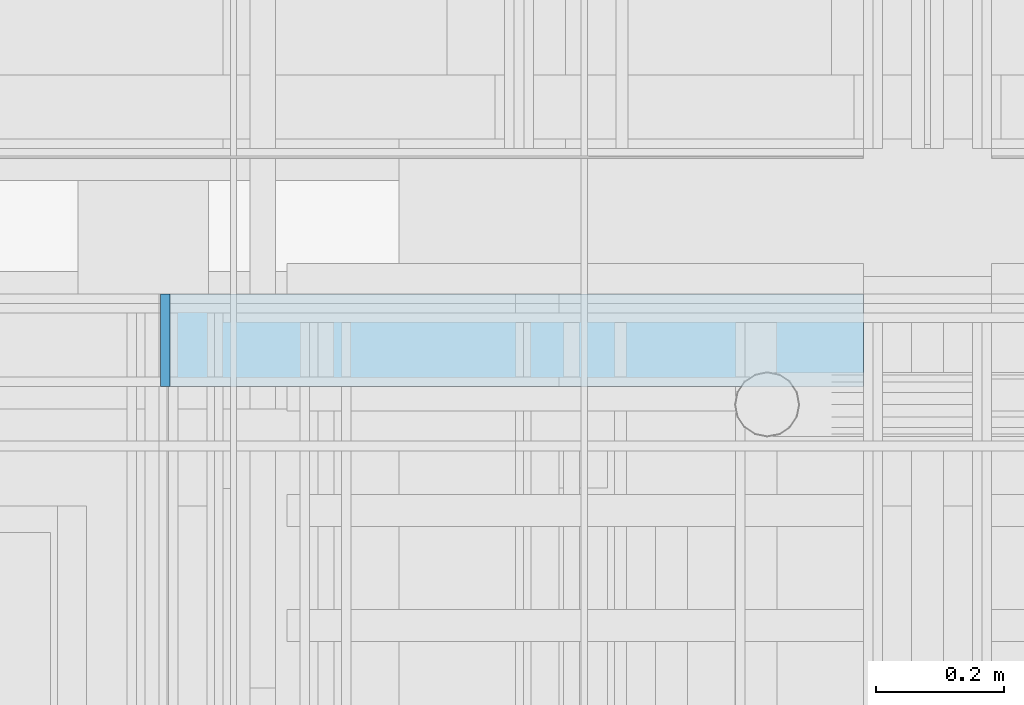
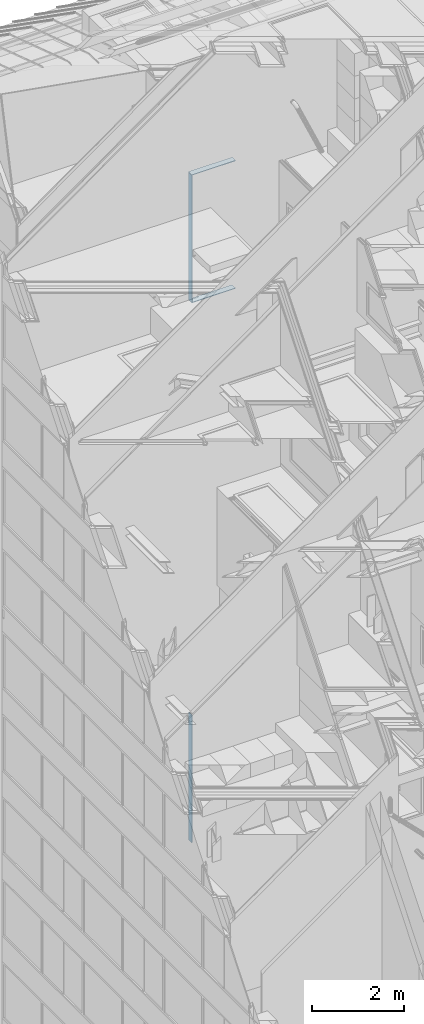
# One storey, part 269 of 583: 4 slabs.
"""IFC2X3 building model written with IfcOpenShell, lengths in metres."""

from ifc_helpers import new_model, entity, si_unit, converted_unit, derived_unit, money_unit, direction, frame, origin_with_axes, place, context, subcontext, project, spatial, faceted_brep, material, type_object, element, save


model = new_model("IFC2X3")

# Units and contexts
model_context = context("Model", 3, precision=1e-05, world=origin_with_axes(), true_north=direction((0.0, 1.0)))
body_context = subcontext(model_context, "Body", "Model", "MODEL_VIEW", scale=1.0)
ifc_project = project(units=[si_unit("LENGTHUNIT", "METRE"), si_unit("AREAUNIT", "SQUARE_METRE"), si_unit("VOLUMEUNIT", "CUBIC_METRE"), si_unit("ABSORBEDDOSEUNIT", "GRAY"), si_unit("AMOUNTOFSUBSTANCEUNIT", "MOLE"), si_unit("DOSEEQUIVALENTUNIT", "SIEVERT"), si_unit("ELECTRICCAPACITANCEUNIT", "FARAD"), si_unit("ELECTRICCHARGEUNIT", "COULOMB"), si_unit("ELECTRICCONDUCTANCEUNIT", "SIEMENS"), si_unit("ELECTRICCURRENTUNIT", "AMPERE"), si_unit("ELECTRICRESISTANCEUNIT", "OHM"), si_unit("ELECTRICVOLTAGEUNIT", "VOLT"), si_unit("ENERGYUNIT", "JOULE"), si_unit("FORCEUNIT", "NEWTON"), si_unit("FREQUENCYUNIT", "HERTZ"), si_unit("ILLUMINANCEUNIT", "LUX"), si_unit("INDUCTANCEUNIT", "HENRY"), si_unit("LUMINOUSFLUXUNIT", "LUMEN"), si_unit("LUMINOUSINTENSITYUNIT", "CANDELA"), si_unit("MAGNETICFLUXDENSITYUNIT", "TESLA"), si_unit("MAGNETICFLUXUNIT", "WEBER"), si_unit("MASSUNIT", "GRAM"), converted_unit("PLANEANGLEUNIT", "degree", entity("IfcReal", 0.0174532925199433), si_unit("PLANEANGLEUNIT", "RADIAN"), dimensions=[0, 0, 0, 0, 0, 0, 0]), si_unit("POWERUNIT", "WATT"), si_unit("PRESSUREUNIT", "PASCAL"), si_unit("RADIOACTIVITYUNIT", "BECQUEREL"), si_unit("SOLIDANGLEUNIT", "STERADIAN"), si_unit("THERMODYNAMICTEMPERATUREUNIT", "KELVIN"), si_unit("TIMEUNIT", "SECOND"), derived_unit("ACCELERATIONUNIT", [(si_unit("LENGTHUNIT", "METRE"), 1), (si_unit("TIMEUNIT", "SECOND"), -2)]), derived_unit("ANGULARVELOCITYUNIT", [(converted_unit("PLANEANGLEUNIT", "degree", entity("IfcReal", 0.0174532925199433), si_unit("PLANEANGLEUNIT", "RADIAN"), dimensions=[0, 0, 0, 0, 0, 0, 0]), 1), (si_unit("TIMEUNIT", "SECOND"), -1)]), derived_unit("CURVATUREUNIT", [(converted_unit("PLANEANGLEUNIT", "degree", entity("IfcReal", 0.0174532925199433), si_unit("PLANEANGLEUNIT", "RADIAN"), dimensions=[0, 0, 0, 0, 0, 0, 0]), 1), (si_unit("LENGTHUNIT", "METRE"), -1)]), derived_unit("DYNAMICVISCOSITYUNIT", [(si_unit("PRESSUREUNIT", "PASCAL"), 1), (si_unit("TIMEUNIT", "SECOND"), 1)]), derived_unit("HEATFLUXDENSITYUNIT", [(si_unit("POWERUNIT", "WATT"), 1), (si_unit("LENGTHUNIT", "METRE"), -2)]), derived_unit("HEATINGVALUEUNIT", [(si_unit("ENERGYUNIT", "JOULE"), 1), (si_unit("MASSUNIT", "GRAM"), -1)]), derived_unit("INTEGERCOUNTRATEUNIT", [(si_unit("TIMEUNIT", "SECOND"), -1)]), derived_unit("IONCONCENTRATIONUNIT", [(si_unit("MASSUNIT", "GRAM"), 1), (si_unit("VOLUMEUNIT", "CUBIC_METRE"), -1)]), derived_unit("ISOTHERMALMOISTURECAPACITYUNIT", [(si_unit("VOLUMEUNIT", "CUBIC_METRE"), 1), (si_unit("MASSUNIT", "GRAM"), -1)]), derived_unit("KINEMATICVISCOSITYUNIT", [(si_unit("AREAUNIT", "SQUARE_METRE"), 1), (si_unit("TIMEUNIT", "SECOND"), -1)]), derived_unit("LINEARFORCEUNIT", [(si_unit("FORCEUNIT", "NEWTON"), 1), (si_unit("LENGTHUNIT", "METRE"), -1)]), derived_unit("LINEARMOMENTUNIT", [(si_unit("FORCEUNIT", "NEWTON"), 1), (si_unit("LENGTHUNIT", "METRE"), -1)]), derived_unit("LINEARSTIFFNESSUNIT", [(si_unit("FORCEUNIT", "NEWTON"), 1), (si_unit("LENGTHUNIT", "METRE"), -1)]), derived_unit("LINEARVELOCITYUNIT", [(si_unit("LENGTHUNIT", "METRE"), 1), (si_unit("TIMEUNIT", "SECOND"), -1)]), derived_unit("LUMINOUSINTENSITYDISTRIBUTIONUNIT", [(si_unit("LUMINOUSINTENSITYUNIT", "CANDELA"), 1), (si_unit("LUMINOUSFLUXUNIT", "LUMEN"), -1)]), derived_unit("MASSDENSITYUNIT", [(si_unit("MASSUNIT", "GRAM"), 1), (si_unit("VOLUMEUNIT", "CUBIC_METRE"), -1)]), derived_unit("MASSFLOWRATEUNIT", [(si_unit("MASSUNIT", "GRAM"), 1), (si_unit("TIMEUNIT", "SECOND"), -1)]), derived_unit("MASSPERLENGTHUNIT", [(si_unit("MASSUNIT", "GRAM"), 1), (si_unit("LENGTHUNIT", "METRE"), -1)]), derived_unit("MODULUSOFELASTICITYUNIT", [(si_unit("FORCEUNIT", "NEWTON"), 1), (si_unit("AREAUNIT", "SQUARE_METRE"), -1)]), derived_unit("MODULUSOFLINEARSUBGRADEREACTIONUNIT", [(si_unit("FORCEUNIT", "NEWTON"), 1), (si_unit("LENGTHUNIT", "METRE"), -2)]), derived_unit("MODULUSOFROTATIONALSUBGRADEREACTIONUNIT", [(si_unit("FORCEUNIT", "NEWTON"), 1), (si_unit("LENGTHUNIT", "METRE"), 1)]), derived_unit("MODULUSOFSUBGRADEREACTIONUNIT", [(si_unit("FORCEUNIT", "NEWTON"), 1), (si_unit("VOLUMEUNIT", "CUBIC_METRE"), -1)]), derived_unit("MOISTUREDIFFUSIVITYUNIT", [(si_unit("VOLUMEUNIT", "CUBIC_METRE"), 1), (si_unit("TIMEUNIT", "SECOND"), -1)]), derived_unit("MOLECULARWEIGHTUNIT", [(si_unit("MASSUNIT", "GRAM"), 1), (si_unit("AMOUNTOFSUBSTANCEUNIT", "MOLE"), -1)]), derived_unit("PLANARFORCEUNIT", [(si_unit("FORCEUNIT", "NEWTON"), 1), (si_unit("LENGTHUNIT", "METRE"), -2)]), derived_unit("ROTATIONALFREQUENCYUNIT", [(si_unit("TIMEUNIT", "SECOND"), -1)]), derived_unit("ROTATIONALMASSUNIT", [(si_unit("MASSUNIT", "GRAM"), 1), (si_unit("LENGTHUNIT", "METRE"), 2)]), derived_unit("ROTATIONALSTIFFNESSUNIT", [(si_unit("FORCEUNIT", "NEWTON"), 1), (si_unit("LENGTHUNIT", "METRE"), 1), (converted_unit("PLANEANGLEUNIT", "degree", entity("IfcReal", 0.0174532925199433), si_unit("PLANEANGLEUNIT", "RADIAN"), dimensions=[0, 0, 0, 0, 0, 0, 0]), -1)]), derived_unit("SECTIONAREAINTEGRALUNIT", [(si_unit("LENGTHUNIT", "METRE"), 5)]), derived_unit("SECTIONMODULUSUNIT", [(si_unit("LENGTHUNIT", "METRE"), 3)]), derived_unit("SHEARMODULUSUNIT", [(si_unit("FORCEUNIT", "NEWTON"), 1), (si_unit("AREAUNIT", "SQUARE_METRE"), -1)]), derived_unit("SOUNDPOWERUNIT", [(si_unit("ENERGYUNIT", "JOULE"), 1), (si_unit("TIMEUNIT", "SECOND"), -1)]), derived_unit("SPECIFICHEATCAPACITYUNIT", [(si_unit("FORCEUNIT", "NEWTON"), 1), (si_unit("MASSUNIT", "GRAM"), -1), (si_unit("THERMODYNAMICTEMPERATUREUNIT", "KELVIN"), -1)]), derived_unit("TEMPERATUREGRADIENTUNIT", [(si_unit("THERMODYNAMICTEMPERATUREUNIT", "KELVIN"), 1), (si_unit("LENGTHUNIT", "METRE"), -1)]), derived_unit("THERMALADMITTANCEUNIT", [(si_unit("POWERUNIT", "WATT"), 1), (si_unit("AREAUNIT", "SQUARE_METRE"), -1), (si_unit("THERMODYNAMICTEMPERATUREUNIT", "KELVIN"), -1)]), derived_unit("THERMALCONDUCTANCEUNIT", [(si_unit("POWERUNIT", "WATT"), 1), (si_unit("LENGTHUNIT", "METRE"), -1), (si_unit("THERMODYNAMICTEMPERATUREUNIT", "KELVIN"), -1)]), derived_unit("THERMALEXPANSIONCOEFFICIENTUNIT", [(si_unit("THERMODYNAMICTEMPERATUREUNIT", "KELVIN"), -1)]), derived_unit("THERMALRESISTANCEUNIT", [(si_unit("AREAUNIT", "SQUARE_METRE"), 1), (si_unit("POWERUNIT", "WATT"), -1)]), derived_unit("THERMALTRANSMITTANCEUNIT", [(si_unit("POWERUNIT", "WATT"), 1), (si_unit("AREAUNIT", "SQUARE_METRE"), -1), (si_unit("THERMODYNAMICTEMPERATUREUNIT", "KELVIN"), -1)]), derived_unit("TORQUEUNIT", [(si_unit("FORCEUNIT", "NEWTON"), 1), (si_unit("LENGTHUNIT", "METRE"), 1)]), derived_unit("VAPORPERMEABILITYUNIT", [(si_unit("MASSUNIT", "GRAM"), 1), (si_unit("TIMEUNIT", "SECOND"), -1)]), derived_unit("VOLUMETRICFLOWRATEUNIT", [(si_unit("VOLUMEUNIT", "CUBIC_METRE"), 1), (si_unit("TIMEUNIT", "SECOND"), -1)]), derived_unit("WARPINGCONSTANTUNIT", [(si_unit("LENGTHUNIT", "METRE"), 6)]), derived_unit("WARPINGMOMENTUNIT", [(si_unit("FORCEUNIT", "NEWTON"), 1), (si_unit("LENGTHUNIT", "METRE"), 2)]), money_unit("GBP")], contexts=[model_context])

# Site, building, storey
site_placement = place(None, origin_with_axes())
site = spatial("IfcSite", under=ifc_project, at=site_placement, Name="Site", CompositionType="ELEMENT")
building_placement = place(site_placement, origin_with_axes())
building = spatial("IfcBuilding", under=site, at=building_placement, Name="Building01", CompositionType="ELEMENT")
storey_placement = place(building_placement, frame((0.0, 0.0, 20.78), z_axis=(0.0, 0.0, 1.0), x_axis=(1.0, 0.0, 0.0)))
storey = spatial("IfcBuildingStorey", under=building, at=storey_placement, Name="RL", CompositionType="ELEMENT", Elevation=20.78)

# Slabs
ifc_material = material(Name="A_BSUK_CeilingSoffitFinishes_Suspended")
slab_type = type_object("IfcSlabType", Name="A-FloorsSlabs A_BSUK_Slabs", PredefinedType="FLOOR")
placement = place(storey_placement, frame((0.0, 0.0, -20.78), z_axis=(0.0, 0.0, 1.0), x_axis=(1.0, 0.0, 0.0)))
element("IfcSlab", 1, at=placement, inside=storey, type_object=slab_type, material=ifc_material, Name="A-FloorsSlabs A_BSUK_Slabs", ObjectType="CompoundSlabLeaf", context=body_context, shape_type="Brep", body=[
    faceted_brep([(6.252627, 17.308, 7.180111), (6.267627, 17.308, 7.180111), (6.267627, 17.453, 7.180111), (6.252627, 17.453, 7.180111), (6.252627, 17.308, 3.795111), (6.267627, 17.308, 3.795111), (6.252627, 17.453, 3.795111), (6.267627, 17.453, 3.795111)], [[[0, 1, 2, 3]], [[4, 5, 1, 0]], [[6, 7, 5, 4]], [[3, 2, 7, 6]], [[1, 5, 7, 2]], [[3, 6, 4, 0]]]),
])
element("IfcSlab", 2, at=placement, inside=storey, type_object=slab_type, material=ifc_material, Name="A-FloorsSlabs A_BSUK_Slabs", ObjectType="CompoundSlabLeaf", context=body_context, shape_type="Brep", body=[
    faceted_brep([(6.252627, 17.308, 21.50344), (6.267627, 17.308, 21.50344), (6.267627, 17.453, 21.50344), (6.252627, 17.453, 21.50344), (6.252627, 17.308, 18.13344), (6.267627, 17.308, 18.13344), (6.252627, 17.453, 18.13344), (6.267627, 17.453, 18.13344)], [[[0, 1, 2, 3]], [[4, 5, 1, 0]], [[6, 7, 5, 4]], [[3, 2, 7, 6]], [[1, 5, 7, 2]], [[3, 6, 4, 0]]]),
])
element("IfcSlab", 3, at=placement, inside=storey, type_object=slab_type, material=ifc_material, Name="A-FloorsSlabs A_BSUK_Slabs", ObjectType="CompoundSlabLeaf", context=body_context, shape_type="Brep", body=[
    faceted_brep([(7.349939, 17.308, 21.51844), (7.349939, 17.308, 21.50344), (7.349939, 17.453, 21.50344), (7.349939, 17.453, 21.51844), (6.252627, 17.308, 21.51844), (6.252627, 17.308, 21.50344), (6.252627, 17.453, 21.51844), (6.252627, 17.453, 21.50344)], [[[0, 1, 2, 3]], [[4, 5, 1, 0]], [[6, 7, 5, 4]], [[3, 2, 7, 6]], [[1, 5, 7, 2]], [[3, 6, 4, 0]]]),
])
element("IfcSlab", 4, at=placement, inside=storey, type_object=slab_type, material=ifc_material, Name="A-FloorsSlabs A_BSUK_Slabs", ObjectType="CompoundSlabLeaf", context=body_context, shape_type="Brep", body=[
    faceted_brep([(7.349939, 17.308, 18.13344), (7.349939, 17.308, 18.11844), (7.349939, 17.453, 18.11844), (7.349939, 17.453, 18.13344), (6.252627, 17.308, 18.13344), (6.252627, 17.308, 18.11844), (6.252627, 17.453, 18.13344), (6.252627, 17.453, 18.11844)], [[[0, 1, 2, 3]], [[4, 5, 1, 0]], [[6, 7, 5, 4]], [[3, 2, 7, 6]], [[1, 5, 7, 2]], [[3, 6, 4, 0]]]),
])

save(model, "model.ifc")
